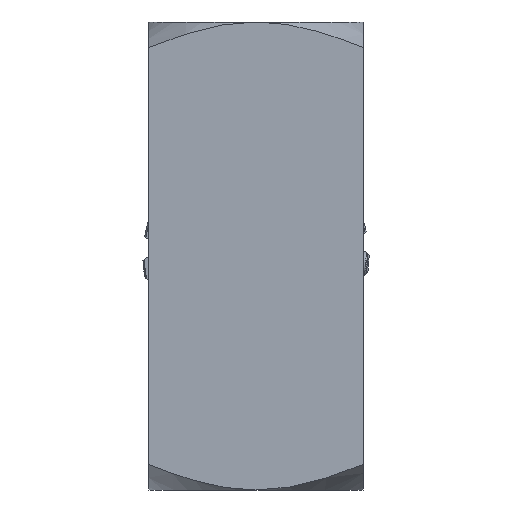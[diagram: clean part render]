
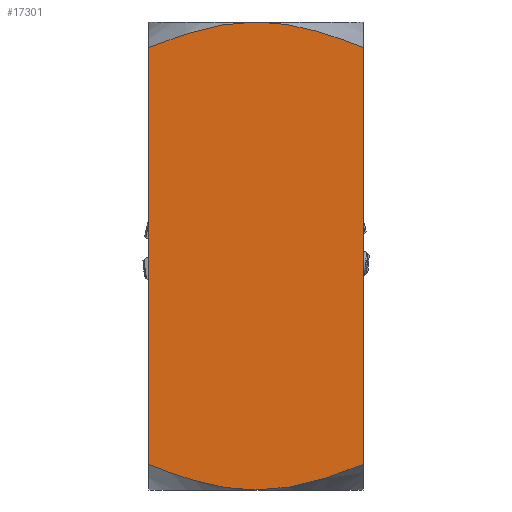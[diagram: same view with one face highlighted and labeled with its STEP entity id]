
A CAD part, front view. The second image highlights one B-rep face of the part: STEP entity #17301.
In plain terms, the highlighted planar face has unit normal (0, -1, 0).
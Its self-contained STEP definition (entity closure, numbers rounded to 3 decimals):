
#1716 = CARTESIAN_POINT ( 'NONE',  ( -27.5, -27.5, -113.423 ) ) ;
#1841 = CARTESIAN_POINT ( 'NONE',  ( -2.977, -27.5, -119.911 ) ) ;
#2503 = CARTESIAN_POINT ( 'NONE',  ( 23.085, -27.5, -4.827 ) ) ;
#2713 = EDGE_CURVE ( 'NONE', #32296, #29970, #29644, .T. ) ;
#3357 = EDGE_CURVE ( 'NONE', #27442, #29970, #32880, .T. ) ;
#4715 = CARTESIAN_POINT ( 'NONE',  ( -1.187, -27.5, -119.989 ) ) ;
#5151 = CARTESIAN_POINT ( 'NONE',  ( -27.5, -27.5, -120. ) ) ;
#5295 = CARTESIAN_POINT ( 'NONE',  ( 0., -27.5, -120. ) ) ;
#5361 = CARTESIAN_POINT ( 'NONE',  ( 18.572, -27.5, -3.274 ) ) ;
#5729 = ORIENTED_EDGE ( 'NONE', *, *, #2713, .F. ) ;
#6080 = CARTESIAN_POINT ( 'NONE',  ( -18.599, -27.5, -3.263 ) ) ;
#6207 = CARTESIAN_POINT ( 'NONE',  ( -11.762, -27.5, -1.351 ) ) ;
#6972 = CARTESIAN_POINT ( 'NONE',  ( 27.5, -27.5, -120. ) ) ;
#7591 = CARTESIAN_POINT ( 'NONE',  ( 0., -27.5, -120. ) ) ;
#7621 = FACE_OUTER_BOUND ( 'NONE', #7632, .T. ) ;
#7632 = EDGE_LOOP ( 'NONE', ( #5729, #23888, #29511, #9351, #17105, #28868 ) ) ;
#8024 = DIRECTION ( 'NONE',  ( 0., 0., -1. ) ) ;
#8153 = CARTESIAN_POINT ( 'NONE',  ( 9.413, -27.5, -119.146 ) ) ;
#8157 = EDGE_CURVE ( 'NONE', #33561, #35521, #15005, .T. ) ;
#8227 = CARTESIAN_POINT ( 'NONE',  ( 15.157, -27.5, -2.242 ) ) ;
#8700 = CARTESIAN_POINT ( 'NONE',  ( -2.977, -27.5, -0.089 ) ) ;
#8803 = CARTESIAN_POINT ( 'NONE',  ( -2.379, -27.5, -0.056 ) ) ;
#8830 = CARTESIAN_POINT ( 'NONE',  ( 0., -27.5, 0. ) ) ;
#9351 = ORIENTED_EDGE ( 'NONE', *, *, #32062, .T. ) ;
#9758 = DIRECTION ( 'NONE',  ( 0., 0., 1. ) ) ;
#10359 = CARTESIAN_POINT ( 'NONE',  ( -23.091, -27.5, -115.171 ) ) ;
#11036 = CARTESIAN_POINT ( 'NONE',  ( 15.157, -27.5, -117.758 ) ) ;
#11101 = CARTESIAN_POINT ( 'NONE',  ( 9.413, -27.5, -0.854 ) ) ;
#11918 = CARTESIAN_POINT ( 'NONE',  ( -0.592, -27.5, 0. ) ) ;
#13204 = CARTESIAN_POINT ( 'NONE',  ( -16.335, -27.5, -117.448 ) ) ;
#13904 = CARTESIAN_POINT ( 'NONE',  ( 18.572, -27.5, -116.726 ) ) ;
#13973 = CARTESIAN_POINT ( 'NONE',  ( 2.388, -27.5, 0. ) ) ;
#14197 = CARTESIAN_POINT ( 'NONE',  ( -25.305, -27.5, -5.681 ) ) ;
#14211 = LINE ( 'NONE', #6972, #36956 ) ;
#14435 = VECTOR ( 'NONE', #16906, 1000. ) ;
#14528 = CARTESIAN_POINT ( 'NONE',  ( 0., -27.5, -120. ) ) ;
#14557 = CARTESIAN_POINT ( 'NONE',  ( -23.091, -27.5, -4.829 ) ) ;
#15005 = B_SPLINE_CURVE_WITH_KNOTS ( 'NONE', 3,
 ( #5295, #22383, #25247, #8153, #28139, #11036, #30993, #13904, #33827, #16780, #36711, #19610 ),
 .UNSPECIFIED., .F., .F.,
 ( 4, 2, 2, 2, 2, 4 ),
 ( 0.058, 0.065, 0.072, 0.076, 0.079, 0.086 ),
 .UNSPECIFIED. ) ;
#15057 = CARTESIAN_POINT ( 'NONE',  ( -27.5, -27.5, -6.577 ) ) ;
#15958 = B_SPLINE_CURVE_WITH_KNOTS ( 'NONE', 3,
 ( #16599, #30940, #2503, #22450, #5361, #25322, #8227, #28208, #11101, #31064, #13973, #33897 ),
 .UNSPECIFIED., .F., .F.,
 ( 4, 2, 2, 2, 2, 4 ),
 ( 0.072, 0.079, 0.082, 0.086, 0.093, 0.1 ),
 .UNSPECIFIED. ) ;
#16066 = CARTESIAN_POINT ( 'NONE',  ( -9.452, -27.5, -119.139 ) ) ;
#16599 = CARTESIAN_POINT ( 'NONE',  ( 27.5, -27.5, -6.577 ) ) ;
#16780 = CARTESIAN_POINT ( 'NONE',  ( 23.085, -27.5, -115.173 ) ) ;
#16906 = DIRECTION ( 'NONE',  ( 0., 0., 1. ) ) ;
#17105 = ORIENTED_EDGE ( 'NONE', *, *, #25493, .T. ) ;
#17301 = ADVANCED_FACE ( 'NONE', ( #7621 ), #27871, .T. ) ;
#17943 = EDGE_CURVE ( 'NONE', #32296, #33561, #28272, .T. ) ;
#18901 = CARTESIAN_POINT ( 'NONE',  ( -4.759, -27.5, -119.778 ) ) ;
#19610 = CARTESIAN_POINT ( 'NONE',  ( 27.5, -27.5, -113.423 ) ) ;
#21785 = VERTEX_POINT ( 'NONE', #32579 ) ;
#21816 = CARTESIAN_POINT ( 'NONE',  ( -2.379, -27.5, -119.944 ) ) ;
#22383 = CARTESIAN_POINT ( 'NONE',  ( 2.388, -27.5, -120. ) ) ;
#22450 = CARTESIAN_POINT ( 'NONE',  ( 19.707, -27.5, -3.649 ) ) ;
#22460 = CARTESIAN_POINT ( 'NONE',  ( -27.5, -27.5, -6.577 ) ) ;
#22914 = CARTESIAN_POINT ( 'NONE',  ( -4.759, -27.5, -0.222 ) ) ;
#23888 = ORIENTED_EDGE ( 'NONE', *, *, #17943, .T. ) ;
#24513 = CARTESIAN_POINT ( 'NONE',  ( 0., -27.5, 0. ) ) ;
#24560 = CARTESIAN_POINT ( 'NONE',  ( -25.305, -27.5, -114.319 ) ) ;
#24678 = CARTESIAN_POINT ( 'NONE',  ( -0.592, -27.5, -120. ) ) ;
#25114 = DIRECTION ( 'NONE',  ( 0., -1., 0. ) ) ;
#25247 = CARTESIAN_POINT ( 'NONE',  ( 4.746, -27.5, -119.818 ) ) ;
#25322 = CARTESIAN_POINT ( 'NONE',  ( 16.298, -27.5, -2.571 ) ) ;
#25493 = EDGE_CURVE ( 'NONE', #21785, #27442, #15958, .T. ) ;
#26887 = AXIS2_PLACEMENT_3D ( 'NONE', #5151, #25114, #8024 ) ;
#27166 = CARTESIAN_POINT ( 'NONE',  ( -16.335, -27.5, -2.552 ) ) ;
#27442 = VERTEX_POINT ( 'NONE', #24513 ) ;
#27871 = PLANE ( 'NONE',  #26887 ) ;
#28139 = CARTESIAN_POINT ( 'NONE',  ( 11.722, -27.5, -118.658 ) ) ;
#28208 = CARTESIAN_POINT ( 'NONE',  ( 11.722, -27.5, -1.342 ) ) ;
#28272 = B_SPLINE_CURVE_WITH_KNOTS ( 'NONE', 3,
 ( #1716, #24560, #10359, #30308, #13204, #33144, #16066, #36008, #18901, #1841, #21816, #4715, #24678, #7591 ),
 .UNSPECIFIED., .F., .F.,
 ( 4, 2, 2, 2, 2, 2, 4 ),
 ( 0.029, 0.037, 0.044, 0.051, 0.054, 0.056, 0.058 ),
 .UNSPECIFIED. ) ;
#28868 = ORIENTED_EDGE ( 'NONE', *, *, #3357, .T. ) ;
#29511 = ORIENTED_EDGE ( 'NONE', *, *, #8157, .T. ) ;
#29644 = LINE ( 'NONE', #34057, #14435 ) ;
#29970 = VERTEX_POINT ( 'NONE', #22460 ) ;
#30308 = CARTESIAN_POINT ( 'NONE',  ( -18.599, -27.5, -116.737 ) ) ;
#30940 = CARTESIAN_POINT ( 'NONE',  ( 25.303, -27.5, -5.68 ) ) ;
#30993 = CARTESIAN_POINT ( 'NONE',  ( 16.298, -27.5, -117.429 ) ) ;
#31064 = CARTESIAN_POINT ( 'NONE',  ( 4.746, -27.5, -0.182 ) ) ;
#31289 = CARTESIAN_POINT ( 'NONE',  ( -9.452, -27.5, -0.861 ) ) ;
#31406 = CARTESIAN_POINT ( 'NONE',  ( -5.939, -27.5, -0.353 ) ) ;
#32062 = EDGE_CURVE ( 'NONE', #35521, #21785, #14211, .T. ) ;
#32296 = VERTEX_POINT ( 'NONE', #33811 ) ;
#32579 = CARTESIAN_POINT ( 'NONE',  ( 27.5, -27.5, -6.577 ) ) ;
#32880 = B_SPLINE_CURVE_WITH_KNOTS ( 'NONE', 3,
 ( #8830, #11918, #35866, #8803, #8700, #22914, #31406, #31289, #6207, #27166, #6080, #14557, #14197, #15057 ),
 .UNSPECIFIED., .F., .F.,
 ( 4, 2, 2, 2, 2, 2, 4 ),
 ( 0.1, 0.102, 0.104, 0.107, 0.114, 0.121, 0.128 ),
 .UNSPECIFIED. ) ;
#33002 = CARTESIAN_POINT ( 'NONE',  ( 27.5, -27.5, -113.423 ) ) ;
#33144 = CARTESIAN_POINT ( 'NONE',  ( -11.762, -27.5, -118.649 ) ) ;
#33561 = VERTEX_POINT ( 'NONE', #14528 ) ;
#33811 = CARTESIAN_POINT ( 'NONE',  ( -27.5, -27.5, -113.423 ) ) ;
#33827 = CARTESIAN_POINT ( 'NONE',  ( 19.707, -27.5, -116.351 ) ) ;
#33897 = CARTESIAN_POINT ( 'NONE',  ( 0., -27.5, 0. ) ) ;
#34057 = CARTESIAN_POINT ( 'NONE',  ( -27.5, -27.5, -120. ) ) ;
#35521 = VERTEX_POINT ( 'NONE', #33002 ) ;
#35866 = CARTESIAN_POINT ( 'NONE',  ( -1.187, -27.5, -0.011 ) ) ;
#36008 = CARTESIAN_POINT ( 'NONE',  ( -5.939, -27.5, -119.647 ) ) ;
#36711 = CARTESIAN_POINT ( 'NONE',  ( 25.303, -27.5, -114.32 ) ) ;
#36956 = VECTOR ( 'NONE', #9758, 1000. ) ;
